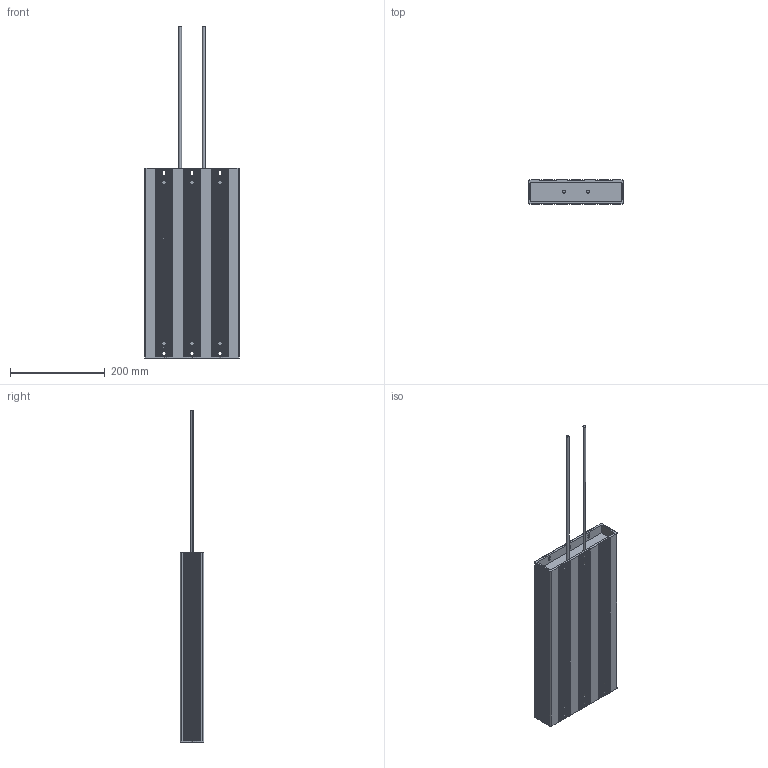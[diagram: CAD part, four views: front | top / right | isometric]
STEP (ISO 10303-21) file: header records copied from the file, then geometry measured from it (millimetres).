
FILE_DESCRIPTION (( 'STEP AP203' ), '1' );
FILE_NAME ('Ðåçèñòîð òîðìîçíîé _ IBRA-20-5000-IP54.STEP', '2025-03-27T14:11:19', ( '' ), ( '' ), 'SwSTEP 2.0', 'SolidWorks 2021', '' );
FILE_SCHEMA (( 'CONFIG_CONTROL_DESIGN' ));
Length unit declared in the file: millimetre
Products named in the file (1): Ðåçèñòîð òîðìîçíîé _ IBRA-20-5000-IP54
Bounding box: 200 x 50 x 700 mm (x, y, z)
Volume: 3635942.8 mm3; surface area: 294273.2 mm2
Topology: 1 solids, 1 shells, 854 faces, 2484 edges, 1624 vertices
Faces by surface type: plane 534, cylinder 320
Entity records: 28897 total; most frequent: CARTESIAN_POINT 6115, ORIENTED_EDGE 4968, DIRECTION 4546, EDGE_CURVE 2484, VECTOR 1748, LINE 1748, VERTEX_POINT 1624, AXIS2_PLACEMENT_3D 1399
